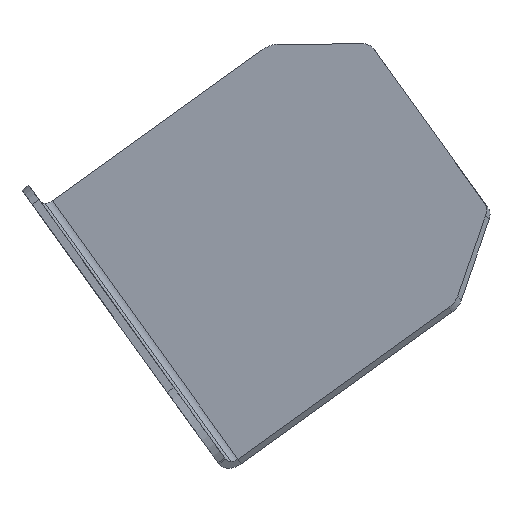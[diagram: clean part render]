
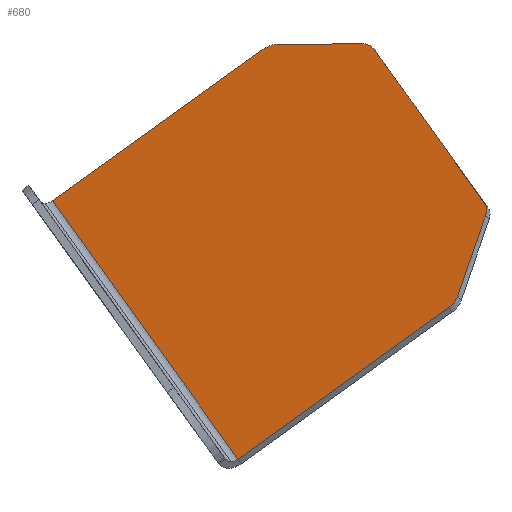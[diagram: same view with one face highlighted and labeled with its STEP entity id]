
A CAD part, left-side view. The second image highlights one B-rep face of the part: STEP entity #680.
In plain terms, the highlighted planar face has unit normal (-0.707, 0.413, 0.574).
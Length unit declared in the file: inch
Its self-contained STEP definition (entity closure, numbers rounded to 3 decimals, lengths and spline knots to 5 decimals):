
#12 = CARTESIAN_POINT ( 'NONE',  ( -7.00897, -10.33184, 3.84129 ) ) ;
#16 = DIRECTION ( 'NONE',  ( 0.707, 0.413, 0.574 ) ) ;
#20 = VERTEX_POINT ( 'NONE', #301 ) ;
#22 = CARTESIAN_POINT ( 'NONE',  ( -7.13397, -10.54834, 3.84299 ) ) ;
#25 = LINE ( 'NONE', #413, #636 ) ;
#69 = EDGE_LOOP ( 'NONE', ( #759, #513, #470, #900, #807, #154, #534, #462, #122, #612 ) ) ;
#72 = DIRECTION ( 'NONE',  ( -0.5, -0.866, 0.007 ) ) ;
#73 = CARTESIAN_POINT ( 'NONE',  ( -5.24121, -10.19596, 5.92081 ) ) ;
#113 = CARTESIAN_POINT ( 'NONE',  ( -7.18575, -10.43503, 3.69776 ) ) ;
#117 = EDGE_CURVE ( 'NONE', #328, #20, #433, .T. ) ;
#122 = ORIENTED_EDGE ( 'NONE', *, *, #669, .T. ) ;
#130 = CARTESIAN_POINT ( 'NONE',  ( -4.07699, -9.31338, 6.72015 ) ) ;
#131 = EDGE_CURVE ( 'NONE', #686, #266, #364, .T. ) ;
#150 = CARTESIAN_POINT ( 'NONE',  ( -6.40542, -10.67257, 4.8296 ) ) ;
#154 = ORIENTED_EDGE ( 'NONE', *, *, #743, .T. ) ;
#157 = EDGE_CURVE ( 'NONE', #186, #737, #25, .T. ) ;
#176 = CARTESIAN_POINT ( 'NONE',  ( -3.29666, -8.16484, 6.85549 ) ) ;
#186 = VERTEX_POINT ( 'NONE', #692 ) ;
#212 = DIRECTION ( 'NONE',  ( 0., 0.812, -0.584 ) ) ;
#213 = EDGE_CURVE ( 'NONE', #704, #20, #889, .T. ) ;
#233 = LINE ( 'NONE', #953, #318 ) ;
#234 = LINE ( 'NONE', #73, #538 ) ;
#237 = VERTEX_POINT ( 'NONE', #22 ) ;
#266 = VERTEX_POINT ( 'NONE', #861 ) ;
#301 = CARTESIAN_POINT ( 'NONE',  ( -3.29666, -5.5898, 5.0042 ) ) ;
#310 = DIRECTION ( 'NONE',  ( 0.5, -0.282, 0.819 ) ) ;
#314 = CARTESIAN_POINT ( 'NONE',  ( -3.47344, -8.26803, 6.71195 ) ) ;
#318 = VECTOR ( 'NONE', #310, 39.37008 ) ;
#321 = VERTEX_POINT ( 'NONE', #459 ) ;
#328 = VERTEX_POINT ( 'NONE', #176 ) ;
#331 = VERTEX_POINT ( 'NONE', #113 ) ;
#350 = AXIS2_PLACEMENT_3D ( 'NONE', #899, #409, #842 ) ;
#364 = CIRCLE ( 'NONE', #622, 0.25 ) ;
#376 = EDGE_CURVE ( 'NONE', #704, #331, #632, .T. ) ;
#409 = DIRECTION ( 'NONE',  ( 0.707, -0.413, -0.574 ) ) ;
#413 = CARTESIAN_POINT ( 'NONE',  ( -3.29666, -8.24892, 6.91593 ) ) ;
#433 = LINE ( 'NONE', #713, #602 ) ;
#459 = CARTESIAN_POINT ( 'NONE',  ( -4.07699, -9.51637, 6.86608 ) ) ;
#462 = ORIENTED_EDGE ( 'NONE', *, *, #131, .T. ) ;
#470 = ORIENTED_EDGE ( 'NONE', *, *, #117, .T. ) ;
#482 = DIRECTION ( 'NONE',  ( 0.5, 0.866, -0.007 ) ) ;
#487 = CARTESIAN_POINT ( 'NONE',  ( -7.18575, -9.54478, 3.05773 ) ) ;
#511 = DIRECTION ( 'NONE',  ( -0.5, -0.866, 0.007 ) ) ;
#513 = ORIENTED_EDGE ( 'NONE', *, *, #948, .T. ) ;
#534 = ORIENTED_EDGE ( 'NONE', *, *, #813, .T. ) ;
#538 = VECTOR ( 'NONE', #663, 39.37008 ) ;
#600 = DIRECTION ( 'NONE',  ( -0.707, 0.413, 0.574 ) ) ;
#601 = DIRECTION ( 'NONE',  ( -0.707, 0.413, 0.574 ) ) ;
#602 = VECTOR ( 'NONE', #212, 39.37008 ) ;
#604 = VECTOR ( 'NONE', #920, 39.37008 ) ;
#612 = ORIENTED_EDGE ( 'NONE', *, *, #639, .T. ) ;
#618 = PLANE ( 'NONE',  #350 ) ;
#622 = AXIS2_PLACEMENT_3D ( 'NONE', #150, #676, #72 ) ;
#632 = LINE ( 'NONE', #487, #604 ) ;
#636 = VECTOR ( 'NONE', #482, 39.37008 ) ;
#639 = EDGE_CURVE ( 'NONE', #321, #186, #942, .T. ) ;
#650 = AXIS2_PLACEMENT_3D ( 'NONE', #130, #651, #795 ) ;
#651 = DIRECTION ( 'NONE',  ( -0.707, 0.413, 0.574 ) ) ;
#663 = DIRECTION ( 'NONE',  ( 0.707, 0.413, 0.574 ) ) ;
#669 = EDGE_CURVE ( 'NONE', #266, #321, #234, .T. ) ;
#676 = DIRECTION ( 'NONE',  ( -0.707, 0.413, 0.574 ) ) ;
#680 = ADVANCED_FACE ( 'NONE', ( #894 ), #618, .F. ) ;
#686 = VERTEX_POINT ( 'NONE', #939 ) ;
#692 = CARTESIAN_POINT ( 'NONE',  ( -3.95199, -9.38395, 6.92483 ) ) ;
#704 = VERTEX_POINT ( 'NONE', #739 ) ;
#709 = AXIS2_PLACEMENT_3D ( 'NONE', #12, #600, #745 ) ;
#713 = CARTESIAN_POINT ( 'NONE',  ( -3.29666, -7.27459, 6.21545 ) ) ;
#737 = VERTEX_POINT ( 'NONE', #758 ) ;
#739 = CARTESIAN_POINT ( 'NONE',  ( -7.18575, -7.86, 1.84648 ) ) ;
#743 = EDGE_CURVE ( 'NONE', #331, #237, #886, .T. ) ;
#745 = DIRECTION ( 'NONE',  ( -0.5, -0.866, 0.007 ) ) ;
#758 = CARTESIAN_POINT ( 'NONE',  ( -3.34844, -8.3386, 6.91664 ) ) ;
#759 = ORIENTED_EDGE ( 'NONE', *, *, #157, .T. ) ;
#771 = CIRCLE ( 'NONE', #824, 0.25 ) ;
#795 = DIRECTION ( 'NONE',  ( -0.5, -0.866, 0.007 ) ) ;
#807 = ORIENTED_EDGE ( 'NONE', *, *, #376, .T. ) ;
#813 = EDGE_CURVE ( 'NONE', #237, #686, #233, .T. ) ;
#824 = AXIS2_PLACEMENT_3D ( 'NONE', #314, #601, #511 ) ;
#839 = VECTOR ( 'NONE', #16, 39.37008 ) ;
#842 = DIRECTION ( 'NONE',  ( 0., -0.812, 0.584 ) ) ;
#861 = CARTESIAN_POINT ( 'NONE',  ( -6.40542, -10.87555, 4.97553 ) ) ;
#886 = CIRCLE ( 'NONE', #709, 0.25 ) ;
#889 = LINE ( 'NONE', #898, #839 ) ;
#894 = FACE_OUTER_BOUND ( 'NONE', #69, .T. ) ;
#898 = CARTESIAN_POINT ( 'NONE',  ( -5.24121, -6.7249, 3.42534 ) ) ;
#899 = CARTESIAN_POINT ( 'NONE',  ( -5.24121, -8.40968, 4.63659 ) ) ;
#900 = ORIENTED_EDGE ( 'NONE', *, *, #213, .F. ) ;
#920 = DIRECTION ( 'NONE',  ( 0., -0.812, 0.584 ) ) ;
#939 = CARTESIAN_POINT ( 'NONE',  ( -6.53042, -10.88907, 4.83129 ) ) ;
#942 = CIRCLE ( 'NONE', #650, 0.25 ) ;
#948 = EDGE_CURVE ( 'NONE', #737, #328, #771, .T. ) ;
#953 = CARTESIAN_POINT ( 'NONE',  ( -6.47864, -10.9183, 4.91608 ) ) ;
